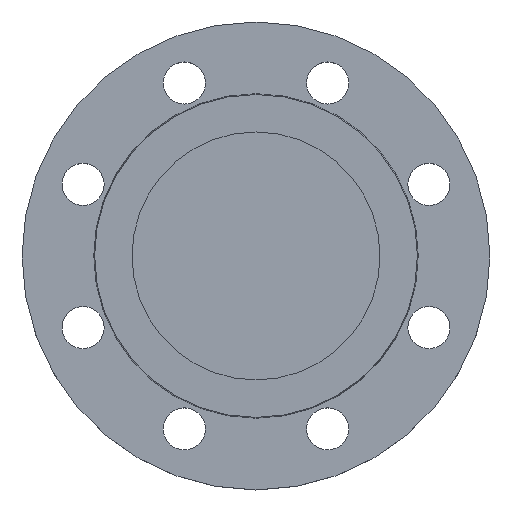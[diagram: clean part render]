
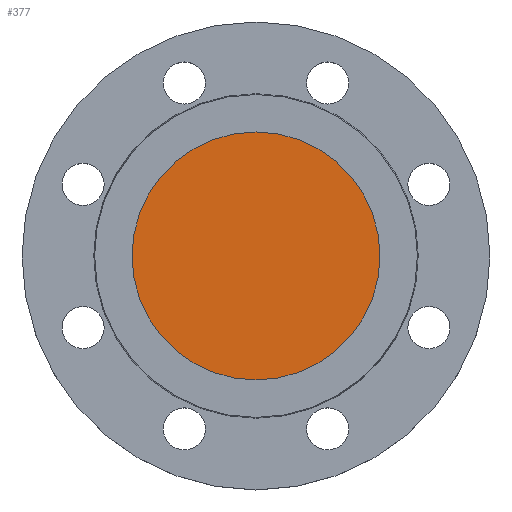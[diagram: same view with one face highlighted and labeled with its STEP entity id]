
A CAD part, top view. The second image highlights one B-rep face of the part: STEP entity #377.
In plain terms, the highlighted planar face has unit normal (0, 0, 1).
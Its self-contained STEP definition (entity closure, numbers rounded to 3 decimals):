
#181 = CARTESIAN_POINT ( 'NONE',  ( 53., 0., -4.5 ) ) ;
#207 = CARTESIAN_POINT ( 'NONE',  ( -53., 0., -4.5 ) ) ;
#232 = AXIS2_PLACEMENT_3D ( 'NONE', #996, #872, #670 ) ;
#275 = EDGE_CURVE ( 'NONE', #917, #910, #825, .T. ) ;
#377 = ADVANCED_FACE ( 'NONE', ( #744 ), #882, .T. ) ;
#486 = EDGE_LOOP ( 'NONE', ( #1085, #1086 ) ) ;
#544 = EDGE_CURVE ( 'NONE', #910, #917, #549, .T. ) ;
#549 = CIRCLE ( 'NONE', #1093, 53. ) ;
#559 = DIRECTION ( 'NONE',  ( -1., 0., 0. ) ) ;
#561 = DIRECTION ( 'NONE',  ( 0., 0., -1. ) ) ;
#562 = CARTESIAN_POINT ( 'NONE',  ( 0., 0., -4.5 ) ) ;
#670 = DIRECTION ( 'NONE',  ( 1., 0., 0. ) ) ;
#719 = DIRECTION ( 'NONE',  ( 0., 0., -1. ) ) ;
#727 = CARTESIAN_POINT ( 'NONE',  ( 0., 0., -4.5 ) ) ;
#728 = DIRECTION ( 'NONE',  ( -1., 0., 0. ) ) ;
#744 = FACE_OUTER_BOUND ( 'NONE', #486, .T. ) ;
#825 = CIRCLE ( 'NONE', #840, 53. ) ;
#840 = AXIS2_PLACEMENT_3D ( 'NONE', #727, #719, #728 ) ;
#872 = DIRECTION ( 'NONE',  ( 0., 0., 1. ) ) ;
#882 = PLANE ( 'NONE',  #232 ) ;
#910 = VERTEX_POINT ( 'NONE', #207 ) ;
#917 = VERTEX_POINT ( 'NONE', #181 ) ;
#996 = CARTESIAN_POINT ( 'NONE',  ( 0., 0., -4.5 ) ) ;
#1085 = ORIENTED_EDGE ( 'NONE', *, *, #544, .F. ) ;
#1086 = ORIENTED_EDGE ( 'NONE', *, *, #275, .F. ) ;
#1093 = AXIS2_PLACEMENT_3D ( 'NONE', #562, #561, #559 ) ;
